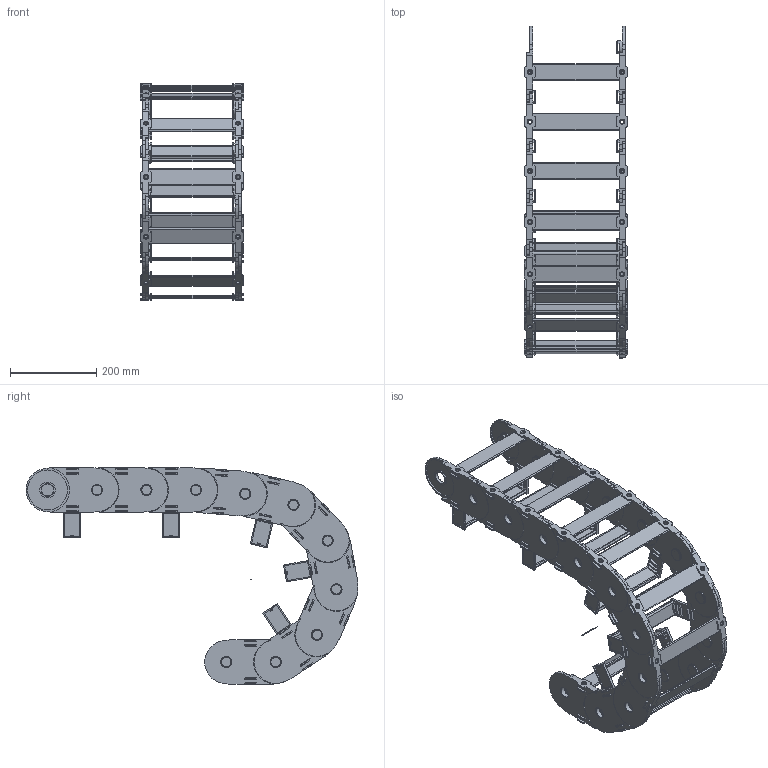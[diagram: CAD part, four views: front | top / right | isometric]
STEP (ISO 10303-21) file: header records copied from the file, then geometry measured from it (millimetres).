
FILE_DESCRIPTION((''),'2;1');
FILE_NAME('C:\Uebbing\TRACE PARTS\PKK\PKK 523\PKK 523 vereinfacht.stp','2013-06-10T14:49:11',('Uebbing'),(''),'Autodesk Inventor 10','Autodesk Inventor 10','');
FILE_SCHEMA(('AUTOMOTIVE_DESIGN { 1 0 10303 214 1 1 1 1 }'));
Length unit declared in the file: millimetre
Products named in the file (7): PKK 523 vereinfacht; Achse; PKK 523 Glied vereinfacht; PKK 520 Lasche vereinfacht; PKK 520 Steg vereinfacht; PKK 320 Aufabausteg vereinfacht; PKK 520 Glied vereinfacht
Assembly tree (17 placements, depth 3):
  PKK 523 vereinfacht
    Achse
    PKK 523 Glied vereinfacht  x5
      PKK 520 Lasche vereinfacht
      PKK 520 Steg vereinfacht
      PKK 320 Aufabausteg vereinfacht
    PKK 520 Glied vereinfacht  x5
Bounding box: 240 x 771.39 x 504 mm (x, y, z)
Volume: 3694496.5 mm3; surface area: 1554219.9 mm2
Topology: 36 solids, 36 shells, 4133 faces, 10234 edges, 6363 vertices
Faces by surface type: cylinder 1621, plane 1152, torus 720, bspline 640
Full cylindrical faces by diameter (mm): 1 x1, 8 x30, 24 x20, 30 x40, 37 x40, 93 x40
Entity records: 18189 total; most frequent: CARTESIAN_POINT 3687, DIRECTION 3165, ORIENTED_EDGE 2858, EDGE_CURVE 1429, AXIS2_PLACEMENT_3D 1203, VERTEX_POINT 910, VECTOR 759, LINE 759
